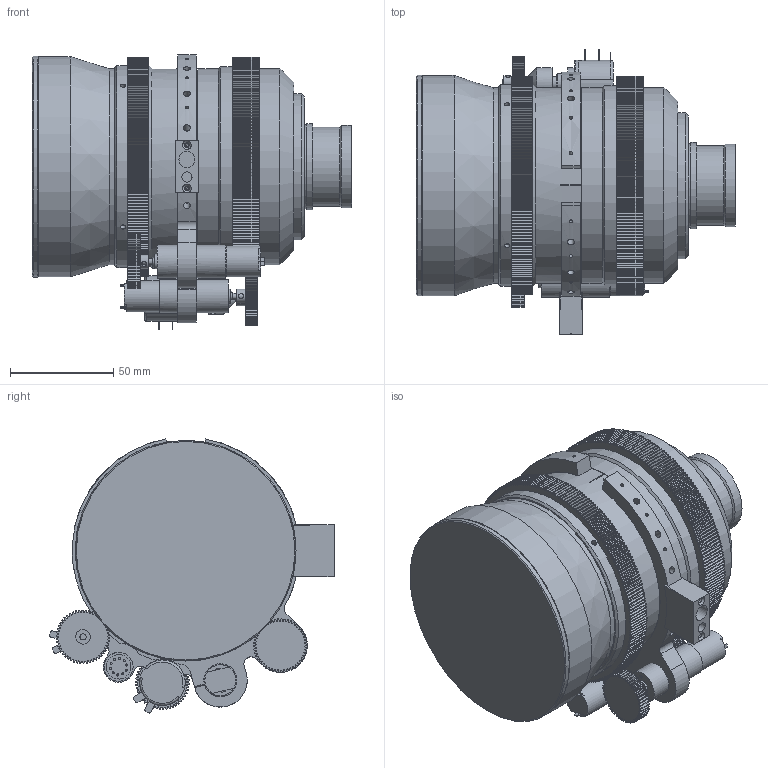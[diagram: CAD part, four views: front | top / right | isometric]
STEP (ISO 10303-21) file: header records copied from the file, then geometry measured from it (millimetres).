
FILE_DESCRIPTION(/* description */ (''),/* implementation_level */ '2;1');
FILE_NAME(/* name */ 'C:\Users\dblandino\Desktop\C0812_079_000.stp',/* time_stamp */ '2016-02-22T08:25:39+01:00',/* author */ ('dblandino'),/* organization */ (''),/* preprocessor_version */ 'ST-DEVELOPER v16.1',/* originating_system */ 'Autodesk Inventor 2016',/* authorisation */ '');
FILE_SCHEMA (('CONFIG_CONTROL_DESIGN'));
Products named in the file (2): C0812_079_000_SUB; C0812_079_000
Assembly tree (1 placements, depth 2):
  C0812_079_000
    C0812_079_000_SUB
Bounding box: 154.8 x 137.86 x 132.83 mm (x, y, z)
Volume: 1114005.8 mm3; surface area: 116455.6 mm2
Topology: 1 solids, 1 shells, 2996 faces, 8790 edges, 5868 vertices
Faces by surface type: cylinder 2705, plane 246, cone 30, bspline 8, torus 7
Full cylindrical faces by diameter (mm): 1 x12, 1.567 x22, 2.2 x4, 2.4 x6, 2.459 x19, 2.5 x2, 3 x4, 3.2 x2, 3.242 x8, 4.5 x8, 4.978 x1, 6.32 x2, 7 x6, 7.798 x1, 8 x3, 9.38 x2, 11 x1, 11.1 x1, 11.9 x2, 13 x2, 14 x1, 14.31 x2, 15 x4, 16 x2, 22.2 x2, 38 x1, 38.5 x1, 40 x1, 40.7 x1, 42 x1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
Entity records: 106785 total; most frequent: CARTESIAN_POINT 20108, DIRECTION 19773, ORIENTED_EDGE 17022, EDGE_CURVE 8511, AXIS2_PLACEMENT_3D 8420, VERTEX_POINT 5764, CIRCLE 5427, EDGE_LOOP 3299
